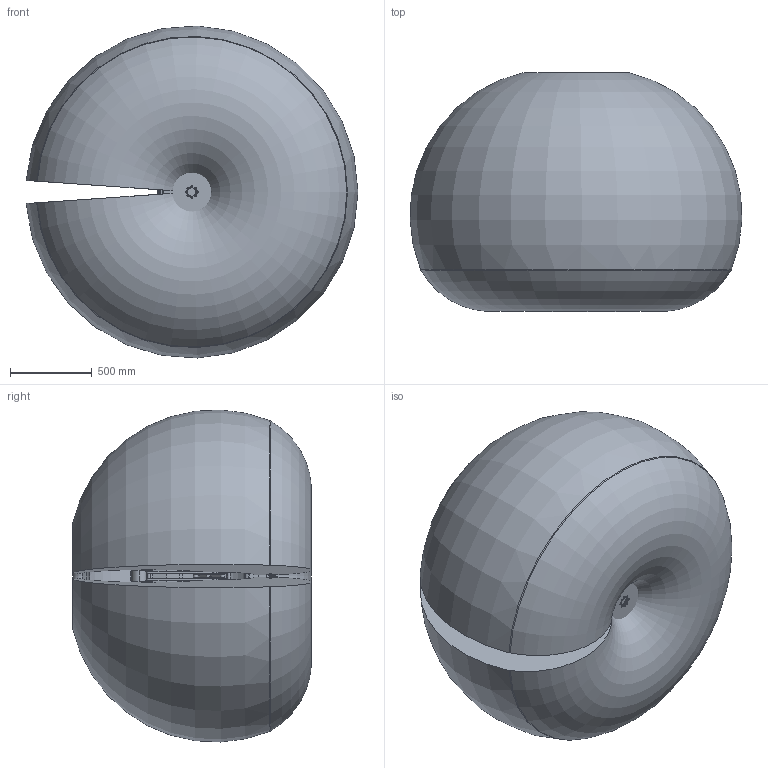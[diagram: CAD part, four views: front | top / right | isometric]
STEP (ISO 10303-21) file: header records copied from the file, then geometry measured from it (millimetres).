
FILE_DESCRIPTION (( 'STEP AP214' ), '1' );
FILE_NAME ('H1000_simple_2023-03.STEP', '2023-03-01T15:44:08', ( '' ), ( '' ), 'SwSTEP 2.0', 'SolidWorks 2019', '' );
FILE_SCHEMA (( 'AUTOMOTIVE_DESIGN' ));
Length unit declared in the file: millimetre
Products named in the file (21): P005125_GK_A3_3; P005125_GK_A2_2; P005125_SO2_blue; P005125_GK_A3_1; P005125_TR1_black; P005125_GK_A2_3; P005125_SC_blue; P005125_TR3_FL black; P005125_GK_A3_2; P007131_defeature; P005125_TR1_blue; P005125_TR3_TR3 black; P005125_TR2_blue; H1000_simple_2023-03; P005125_GK_A2_1; P005125_SC_black; Arbeitsraum_H1000_ganzer Raum; P005125_GK_A3_4; P005125_TR2_black; P005125_GK_A2_4; P005125_SO2_black
Assembly tree (20 placements, depth 2):
  H1000_simple_2023-03
    P007131_defeature
    P005125_SO2_black
    P005125_SO2_blue
    P005125_SC_black
    P005125_SC_blue
    P005125_TR1_black
    P005125_TR1_blue
    P005125_TR2_black
    P005125_TR2_blue
    P005125_TR3_TR3 black
    P005125_TR3_FL black
    P005125_GK_A2_1
    P005125_GK_A2_2
    P005125_GK_A2_3
    P005125_GK_A2_4
    P005125_GK_A3_1
    P005125_GK_A3_2
    P005125_GK_A3_3
    P005125_GK_A3_4
    Arbeitsraum_H1000_ganzer Raum
Bounding box: 2031.64 x 1462.16 x 2032.88 mm (x, y, z)
Volume: 2847012628 mm3; surface area: 21006969.5 mm2
Topology: 144 solids, 144 shells, 6004 faces, 15006 edges, 9487 vertices
Faces by surface type: plane 2869, cylinder 1454, bspline 1094, torus 392, cone 109, sphere 86
Full cylindrical faces by diameter (mm): 2.5 x10, 3.1 x1, 3.2 x4, 3.3 x16, 3.4 x2, 3.7 x3, 3.8 x4, 4 x7, 4.2 x4, 4.3 x4, 4.5 x40, 5 x33, 5.5 x5, 6 x4, 6.5 x1, 6.6 x1, 7 x12, 7.8 x4, 8.7 x4, 9 x6, 14 x2, 15 x1, 18 x14, 20 x11, 20.4 x1, 22 x1, 22.5 x1, 23 x1, 24 x20, 25 x7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
Entity records: 259194 total; most frequent: CARTESIAN_POINT 107100, ORIENTED_EDGE 28810, DIRECTION 25346, EDGE_CURVE 14405, VERTEX_POINT 9329, AXIS2_PLACEMENT_3D 8687, VECTOR 7972, LINE 7972
